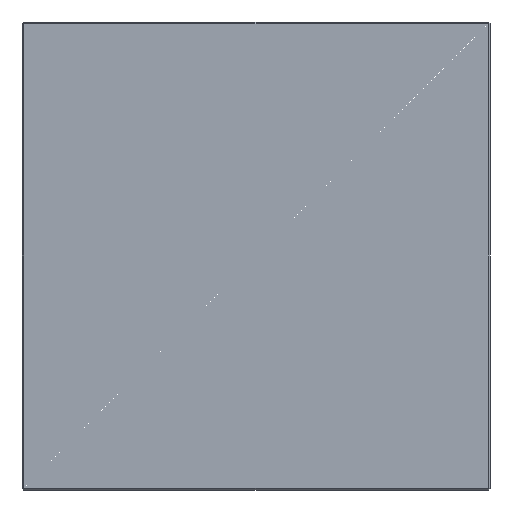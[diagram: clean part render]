
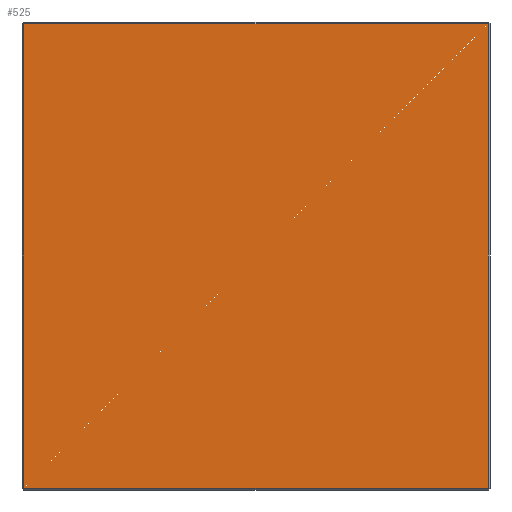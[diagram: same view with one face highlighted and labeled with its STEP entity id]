
A CAD part, front view. The second image highlights one B-rep face of the part: STEP entity #525.
In plain terms, the highlighted planar face has unit normal (0, -1, 0).
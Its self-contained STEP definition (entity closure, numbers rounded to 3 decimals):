
#50 = EDGE_CURVE ( 'NONE', #432, #557, #57, .T. ) ;
#57 = LINE ( 'NONE', #544, #336 ) ;
#63 = ORIENTED_EDGE ( 'NONE', *, *, #50, .T. ) ;
#96 = DIRECTION ( 'NONE',  ( 1., 0., 0. ) ) ;
#107 = CARTESIAN_POINT ( 'NONE',  ( 122., 0., 0. ) ) ;
#129 = EDGE_CURVE ( 'NONE', #557, #372, #390, .T. ) ;
#173 = EDGE_CURVE ( 'NONE', #466, #432, #584, .T. ) ;
#228 = VECTOR ( 'NONE', #540, 1000. ) ;
#230 = LINE ( 'NONE', #107, #354 ) ;
#289 = ORIENTED_EDGE ( 'NONE', *, *, #494, .T. ) ;
#305 = DIRECTION ( 'NONE',  ( 0., 0., 1. ) ) ;
#328 = DIRECTION ( 'NONE',  ( 0., 0., -1. ) ) ;
#336 = VECTOR ( 'NONE', #328, 1000. ) ;
#338 = AXIS2_PLACEMENT_3D ( 'NONE', #610, #549, #305 ) ;
#343 = FACE_OUTER_BOUND ( 'NONE', #633, .T. ) ;
#354 = VECTOR ( 'NONE', #559, 1000. ) ;
#372 = VERTEX_POINT ( 'NONE', #543 ) ;
#390 = LINE ( 'NONE', #495, #625 ) ;
#411 = CARTESIAN_POINT ( 'NONE',  ( -122., 0., 122. ) ) ;
#418 = ORIENTED_EDGE ( 'NONE', *, *, #129, .T. ) ;
#432 = VERTEX_POINT ( 'NONE', #411 ) ;
#466 = VERTEX_POINT ( 'NONE', #616 ) ;
#469 = PLANE ( 'NONE',  #338 ) ;
#494 = EDGE_CURVE ( 'NONE', #372, #466, #230, .T. ) ;
#495 = CARTESIAN_POINT ( 'NONE',  ( 0., 0., -122. ) ) ;
#525 = ADVANCED_FACE ( 'NONE', ( #343 ), #469, .F. ) ;
#540 = DIRECTION ( 'NONE',  ( -1., 0., 0. ) ) ;
#543 = CARTESIAN_POINT ( 'NONE',  ( 122., 0., -122. ) ) ;
#544 = CARTESIAN_POINT ( 'NONE',  ( -122., 0., 0. ) ) ;
#549 = DIRECTION ( 'NONE',  ( 0., 1., 0. ) ) ;
#557 = VERTEX_POINT ( 'NONE', #602 ) ;
#559 = DIRECTION ( 'NONE',  ( 0., 0., 1. ) ) ;
#577 = ORIENTED_EDGE ( 'NONE', *, *, #173, .T. ) ;
#584 = LINE ( 'NONE', #599, #228 ) ;
#599 = CARTESIAN_POINT ( 'NONE',  ( 0., 0., 122. ) ) ;
#602 = CARTESIAN_POINT ( 'NONE',  ( -122., 0., -122. ) ) ;
#610 = CARTESIAN_POINT ( 'NONE',  ( 0., 0., 0. ) ) ;
#616 = CARTESIAN_POINT ( 'NONE',  ( 122., 0., 122. ) ) ;
#625 = VECTOR ( 'NONE', #96, 1000. ) ;
#633 = EDGE_LOOP ( 'NONE', ( #289, #577, #63, #418 ) ) ;
